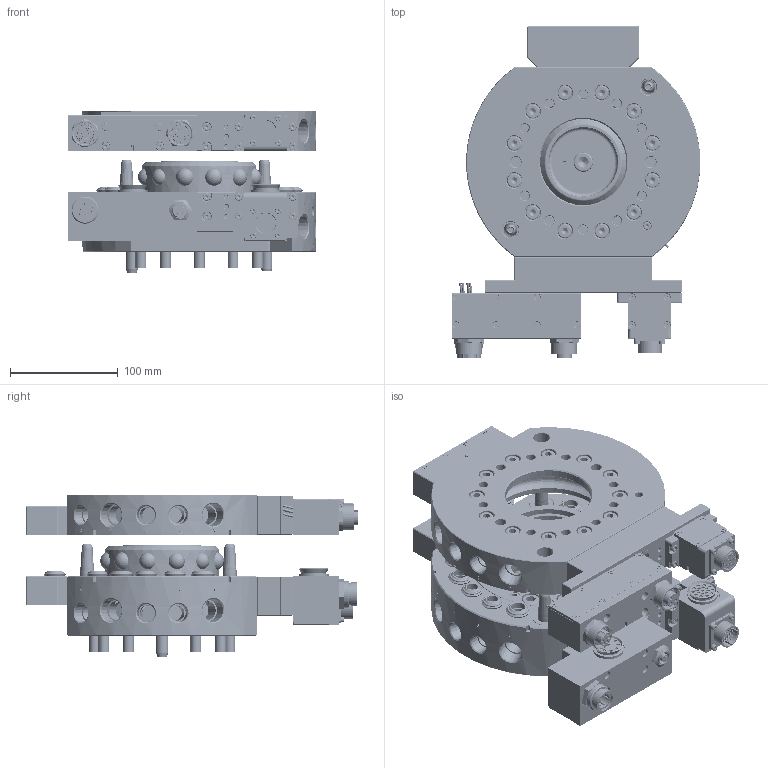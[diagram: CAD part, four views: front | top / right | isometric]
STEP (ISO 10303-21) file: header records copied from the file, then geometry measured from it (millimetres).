
FILE_DESCRIPTION (( 'STEP AP214' ), '1' );
FILE_NAME ('×°ÅäÌå2.STEP', '2024-05-29T02:45:07', ( '' ), ( '' ), 'SwSTEP 2.0', 'SolidWorks 2018', '' );
FILE_SCHEMA (( 'AUTOMOTIVE_DESIGN' ));
Length unit declared in the file: millimetre
Products named in the file (3): 蚾饜极2; QCA-A-QC160RR; QCA-A-QC160GG
Assembly tree (2 placements, depth 2):
  蚾饜极2
    QCA-A-QC160RR
    QCA-A-QC160GG
Bounding box: 230.32 x 307.65 x 150.34 mm (x, y, z)
Volume: 3647909.5 mm3; surface area: 570524.3 mm2
Topology: 2 solids, 176 shells, 9636 faces, 23015 edges, 14094 vertices
Faces by surface type: plane 4302, cylinder 2475, cone 1789, torus 571, bspline 387, sphere 112
Entity records: 395921 total; most frequent: CARTESIAN_POINT 119504, DIRECTION 47353, ORIENTED_EDGE 45218, EDGE_CURVE 22609, AXIS2_PLACEMENT_3D 17963, VERTEX_POINT 14024, LINE 11427, VECTOR 11427
